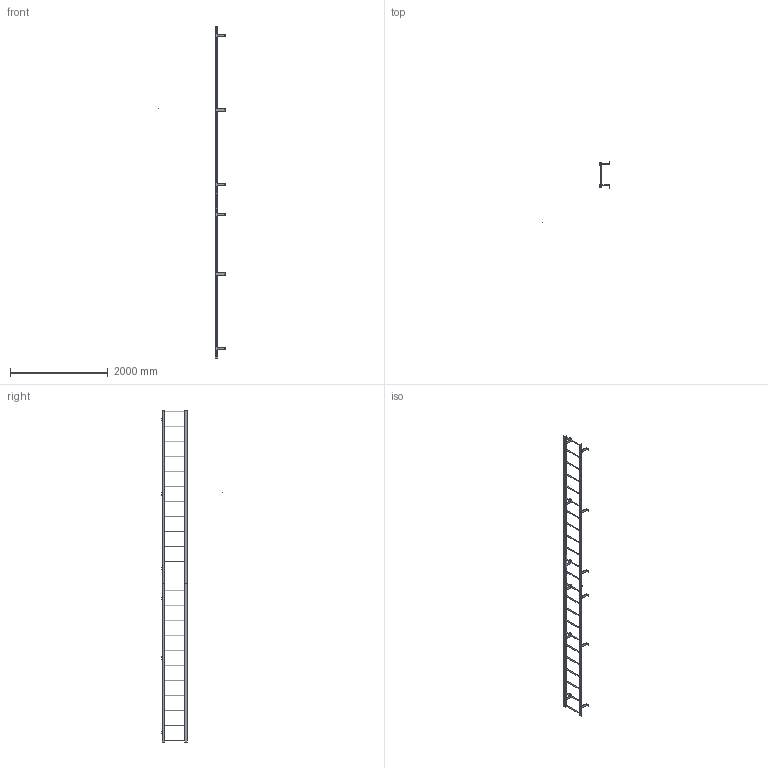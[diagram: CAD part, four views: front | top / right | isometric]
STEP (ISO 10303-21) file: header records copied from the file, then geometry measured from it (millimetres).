
FILE_DESCRIPTION(/* description */ (''),/* implementation_level */ '2;1');
FILE_NAME(/* name */ 'P:\MIKEL & KAREN\D0570337 F23S SIMPLIFIED PART.stp',/* time_stamp */ '2018-07-03T08:28:22-04:00',/* author */ ('stephanie'),/* organization */ (''),/* preprocessor_version */ 'ST-DEVELOPER v16.1',/* originating_system */ 'Autodesk Inventor 2016',/* authorisation */ '');
FILE_SCHEMA (('AUTOMOTIVE_DESIGN { 1 0 10303 214 3 1 1 }'));
Length unit declared in the file: centimetre
Products named in the file (1): D0570337 F23S SIMPLIFIED PART
Bounding box: 1364.64 x 1244.97 x 6781.8 mm (x, y, z)
Volume: 11859057.9 mm3; surface area: 3560918.5 mm2
Topology: 26 solids, 26 shells, 346 faces, 918 edges, 616 vertices
Faces by surface type: plane 202, cylinder 144
Full cylindrical faces by diameter (mm): 0.254 x1, 14.287 x14, 19.05 x23, 22.225 x46
Entity records: 10482 total; most frequent: DIRECTION 1780, CARTESIAN_POINT 1677, ORIENTED_EDGE 1548, EDGE_CURVE 774, AXIS2_PLACEMENT_3D 659, VERTEX_POINT 556, EDGE_LOOP 550, LINE 462
